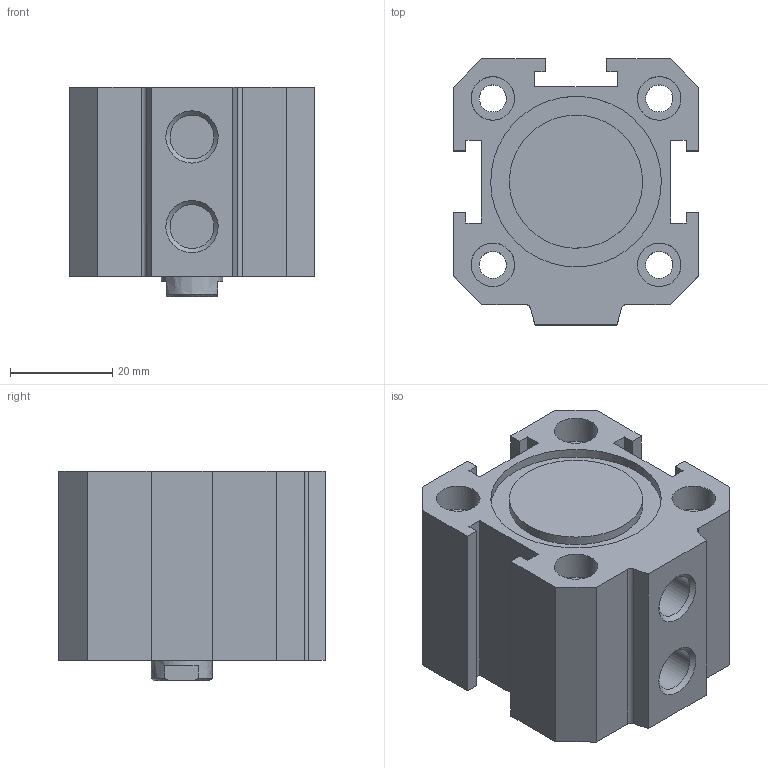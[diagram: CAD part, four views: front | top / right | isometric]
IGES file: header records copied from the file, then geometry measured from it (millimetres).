
Global section: file name: 1512_32_0005; native system: Autodesk Inventor 2014; preprocessor: unknown; author: A. Manieri; date: 20160907.113012; units: millimetre
Bounding box: 48 x 52 x 41 mm (x, y, z)
Volume: 66544.7 mm3; surface area: 24446.4 mm2
Topology: 2 solids, 2 shells, 92 faces, 236 edges, 166 vertices
Faces by surface type: bspline 92
